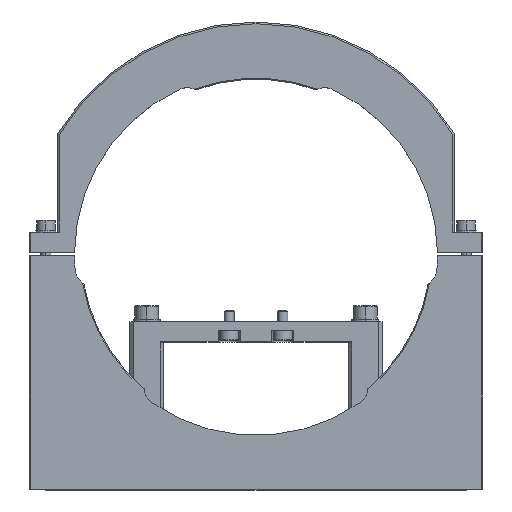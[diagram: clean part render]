
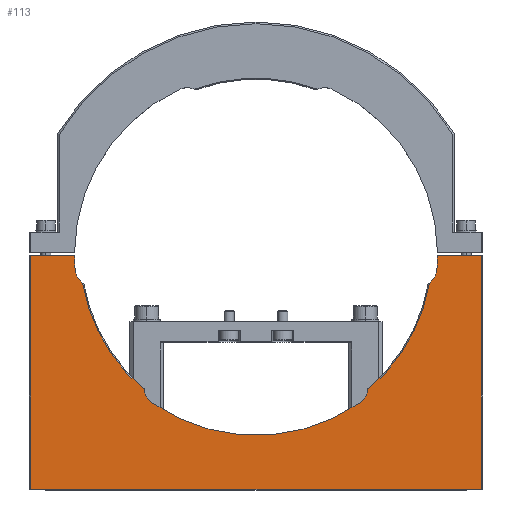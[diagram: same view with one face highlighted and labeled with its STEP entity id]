
A CAD part, top view. The second image highlights one B-rep face of the part: STEP entity #113.
In plain terms, the highlighted planar face has unit normal (0, 0, 1).
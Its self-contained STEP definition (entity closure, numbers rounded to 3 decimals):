
#23 = CARTESIAN_POINT ( 'NONE',  ( 48.315, -4.227, 132. ) ) ;
#113 = ADVANCED_FACE ( 'NONE', ( #9721 ), #14889, .F. ) ;
#329 = VERTEX_POINT ( 'NONE', #1805 ) ;
#343 = DIRECTION ( 'NONE',  ( -1., 0., 0. ) ) ;
#409 = CARTESIAN_POINT ( 'NONE',  ( 67., -0.5, 132. ) ) ;
#454 = DIRECTION ( 'NONE',  ( -0.5, -0.866, 0. ) ) ;
#797 = AXIS2_PLACEMENT_3D ( 'NONE', #10054, #12689, #15542 ) ;
#827 = ORIENTED_EDGE ( 'NONE', *, *, #7823, .T. ) ;
#1143 = DIRECTION ( 'NONE',  ( 1., 0., 0. ) ) ;
#1173 = VERTEX_POINT ( 'NONE', #409 ) ;
#1353 = VERTEX_POINT ( 'NONE', #6191 ) ;
#1385 = DIRECTION ( 'NONE',  ( -0.5, 0.866, 0. ) ) ;
#1657 = LINE ( 'NONE', #5226, #2377 ) ;
#1722 = CARTESIAN_POINT ( 'NONE',  ( 70., -0.5, 132. ) ) ;
#1796 = EDGE_CURVE ( 'NONE', #4285, #4158, #15644, .T. ) ;
#1805 = CARTESIAN_POINT ( 'NONE',  ( 51.579, -8.654, 132. ) ) ;
#1839 = CARTESIAN_POINT ( 'NONE',  ( 67.5, -70., 132. ) ) ;
#1886 = CARTESIAN_POINT ( 'NONE',  ( 0., 0., 132. ) ) ;
#1975 = CIRCLE ( 'NONE', #11976, 54. ) ;
#2322 = CARTESIAN_POINT ( 'NONE',  ( 27.818, -39.729, 132. ) ) ;
#2377 = VECTOR ( 'NONE', #6589, 1000. ) ;
#2454 = ORIENTED_EDGE ( 'NONE', *, *, #11841, .F. ) ;
#2607 = AXIS2_PLACEMENT_3D ( 'NONE', #2322, #8758, #16384 ) ;
#2733 = DIRECTION ( 'NONE',  ( 0., 0., -1. ) ) ;
#2851 = CIRCLE ( 'NONE', #12332, 52.3 ) ;
#2894 = EDGE_CURVE ( 'NONE', #13021, #16536, #15371, .T. ) ;
#2932 = AXIS2_PLACEMENT_3D ( 'NONE', #1886, #12056, #454 ) ;
#3091 = CARTESIAN_POINT ( 'NONE',  ( -53.795, -4.706, 132. ) ) ;
#3272 = ORIENTED_EDGE ( 'NONE', *, *, #14082, .F. ) ;
#3500 = CARTESIAN_POINT ( 'NONE',  ( 0., 0., 132. ) ) ;
#3674 = DIRECTION ( 'NONE',  ( 0., 1., 0. ) ) ;
#3694 = CIRCLE ( 'NONE', #8571, 5.5 ) ;
#3808 = CARTESIAN_POINT ( 'NONE',  ( -53.998, -0.5, 132. ) ) ;
#4027 = ORIENTED_EDGE ( 'NONE', *, *, #1796, .T. ) ;
#4066 = LINE ( 'NONE', #14646, #13103 ) ;
#4158 = VERTEX_POINT ( 'NONE', #6049 ) ;
#4185 = EDGE_CURVE ( 'NONE', #9076, #15932, #1975, .T. ) ;
#4285 = VERTEX_POINT ( 'NONE', #16076 ) ;
#4324 = CARTESIAN_POINT ( 'NONE',  ( 53.795, -4.706, 132. ) ) ;
#4557 = AXIS2_PLACEMENT_3D ( 'NONE', #4624, #7166, #11304 ) ;
#4624 = CARTESIAN_POINT ( 'NONE',  ( 0., 0., 132. ) ) ;
#4637 = CARTESIAN_POINT ( 'NONE',  ( -30.973, -44.234, 132. ) ) ;
#4688 = DIRECTION ( 'NONE',  ( 0., 0., 1. ) ) ;
#4840 = VERTEX_POINT ( 'NONE', #4637 ) ;
#4884 = CIRCLE ( 'NONE', #7855, 5.5 ) ;
#4904 = ORIENTED_EDGE ( 'NONE', *, *, #12595, .F. ) ;
#4985 = ORIENTED_EDGE ( 'NONE', *, *, #11299, .F. ) ;
#5011 = AXIS2_PLACEMENT_3D ( 'NONE', #1839, #14629, #5759 ) ;
#5031 = CARTESIAN_POINT ( 'NONE',  ( 67., -70., 132. ) ) ;
#5108 = ORIENTED_EDGE ( 'NONE', *, *, #4185, .F. ) ;
#5226 = CARTESIAN_POINT ( 'NONE',  ( -67., -70., 132. ) ) ;
#5245 = VERTEX_POINT ( 'NONE', #12492 ) ;
#5483 = EDGE_CURVE ( 'NONE', #8147, #1173, #6401, .T. ) ;
#5646 = CARTESIAN_POINT ( 'NONE',  ( 67., -70., 132. ) ) ;
#5657 = VERTEX_POINT ( 'NONE', #7322 ) ;
#5759 = DIRECTION ( 'NONE',  ( -1., 0., 0. ) ) ;
#5874 = CARTESIAN_POINT ( 'NONE',  ( 53.998, -0.5, 132. ) ) ;
#6049 = CARTESIAN_POINT ( 'NONE',  ( -51.579, -8.654, 132. ) ) ;
#6191 = CARTESIAN_POINT ( 'NONE',  ( -67., -70., 132. ) ) ;
#6401 = LINE ( 'NONE', #5031, #16293 ) ;
#6589 = DIRECTION ( 'NONE',  ( 0., -1., 0. ) ) ;
#6591 = ORIENTED_EDGE ( 'NONE', *, *, #5483, .T. ) ;
#6905 = DIRECTION ( 'NONE',  ( 1., 0., 0. ) ) ;
#7037 = EDGE_CURVE ( 'NONE', #8147, #1353, #4066, .T. ) ;
#7166 = DIRECTION ( 'NONE',  ( 0., 0., -1. ) ) ;
#7322 = CARTESIAN_POINT ( 'NONE',  ( 33.284, -40.342, 132. ) ) ;
#7470 = AXIS2_PLACEMENT_3D ( 'NONE', #8215, #12025, #15669 ) ;
#7755 = VERTEX_POINT ( 'NONE', #14338 ) ;
#7823 = EDGE_CURVE ( 'NONE', #329, #5657, #2851, .T. ) ;
#7835 = CARTESIAN_POINT ( 'NONE',  ( 0., 0., 132. ) ) ;
#7855 = AXIS2_PLACEMENT_3D ( 'NONE', #15260, #10590, #16696 ) ;
#8147 = VERTEX_POINT ( 'NONE', #5646 ) ;
#8215 = CARTESIAN_POINT ( 'NONE',  ( 0., 0., 132. ) ) ;
#8265 = ORIENTED_EDGE ( 'NONE', *, *, #10836, .F. ) ;
#8400 = EDGE_CURVE ( 'NONE', #5245, #5657, #13116, .T. ) ;
#8410 = DIRECTION ( 'NONE',  ( -0.5, 0.866, 0. ) ) ;
#8571 = AXIS2_PLACEMENT_3D ( 'NONE', #23, #11795, #1385 ) ;
#8758 = DIRECTION ( 'NONE',  ( 0., 0., 1. ) ) ;
#8901 = CIRCLE ( 'NONE', #797, 5.5 ) ;
#9059 = EDGE_CURVE ( 'NONE', #4840, #5245, #14747, .T. ) ;
#9076 = VERTEX_POINT ( 'NONE', #4324 ) ;
#9181 = EDGE_LOOP ( 'NONE', ( #15298, #6591, #4904, #5108, #3272, #827, #13495, #13976, #8265, #4027, #4985, #13242, #2454, #13097 ) ) ;
#9721 = FACE_OUTER_BOUND ( 'NONE', #9181, .T. ) ;
#9899 = DIRECTION ( 'NONE',  ( 1., 0., 0. ) ) ;
#9984 = CARTESIAN_POINT ( 'NONE',  ( 70., -0.5, 132. ) ) ;
#10054 = CARTESIAN_POINT ( 'NONE',  ( -27.818, -39.729, 132. ) ) ;
#10590 = DIRECTION ( 'NONE',  ( 0., 0., 1. ) ) ;
#10828 = VECTOR ( 'NONE', #9899, 1000. ) ;
#10836 = EDGE_CURVE ( 'NONE', #4285, #4840, #8901, .T. ) ;
#11299 = EDGE_CURVE ( 'NONE', #16536, #4158, #4884, .T. ) ;
#11304 = DIRECTION ( 'NONE',  ( 1., 0., 0. ) ) ;
#11795 = DIRECTION ( 'NONE',  ( 0., 0., 1. ) ) ;
#11841 = EDGE_CURVE ( 'NONE', #7755, #13021, #16336, .T. ) ;
#11976 = AXIS2_PLACEMENT_3D ( 'NONE', #3500, #4688, #8410 ) ;
#12025 = DIRECTION ( 'NONE',  ( 0., 0., 1. ) ) ;
#12056 = DIRECTION ( 'NONE',  ( 0., 0., 1. ) ) ;
#12332 = AXIS2_PLACEMENT_3D ( 'NONE', #7835, #2733, #1143 ) ;
#12492 = CARTESIAN_POINT ( 'NONE',  ( 30.973, -44.234, 132. ) ) ;
#12595 = EDGE_CURVE ( 'NONE', #15932, #1173, #13249, .T. ) ;
#12689 = DIRECTION ( 'NONE',  ( 0., 0., 1. ) ) ;
#13021 = VERTEX_POINT ( 'NONE', #3808 ) ;
#13097 = ORIENTED_EDGE ( 'NONE', *, *, #14823, .T. ) ;
#13103 = VECTOR ( 'NONE', #343, 1000. ) ;
#13116 = CIRCLE ( 'NONE', #2607, 5.5 ) ;
#13242 = ORIENTED_EDGE ( 'NONE', *, *, #2894, .F. ) ;
#13249 = LINE ( 'NONE', #1722, #15988 ) ;
#13495 = ORIENTED_EDGE ( 'NONE', *, *, #8400, .F. ) ;
#13976 = ORIENTED_EDGE ( 'NONE', *, *, #9059, .F. ) ;
#14082 = EDGE_CURVE ( 'NONE', #329, #9076, #3694, .T. ) ;
#14338 = CARTESIAN_POINT ( 'NONE',  ( -67., -0.5, 132. ) ) ;
#14629 = DIRECTION ( 'NONE',  ( 0., 0., -1. ) ) ;
#14646 = CARTESIAN_POINT ( 'NONE',  ( 67.5, -70., 132. ) ) ;
#14747 = CIRCLE ( 'NONE', #7470, 54. ) ;
#14823 = EDGE_CURVE ( 'NONE', #7755, #1353, #1657, .T. ) ;
#14889 = PLANE ( 'NONE',  #5011 ) ;
#15260 = CARTESIAN_POINT ( 'NONE',  ( -48.315, -4.227, 132. ) ) ;
#15298 = ORIENTED_EDGE ( 'NONE', *, *, #7037, .F. ) ;
#15371 = CIRCLE ( 'NONE', #2932, 54. ) ;
#15542 = DIRECTION ( 'NONE',  ( 1., 0., 0. ) ) ;
#15644 = CIRCLE ( 'NONE', #4557, 52.3 ) ;
#15669 = DIRECTION ( 'NONE',  ( 1., 0., 0. ) ) ;
#15932 = VERTEX_POINT ( 'NONE', #5874 ) ;
#15988 = VECTOR ( 'NONE', #6905, 1000. ) ;
#16076 = CARTESIAN_POINT ( 'NONE',  ( -33.284, -40.342, 132. ) ) ;
#16293 = VECTOR ( 'NONE', #3674, 1000. ) ;
#16336 = LINE ( 'NONE', #9984, #10828 ) ;
#16384 = DIRECTION ( 'NONE',  ( -1., 0., 0. ) ) ;
#16536 = VERTEX_POINT ( 'NONE', #3091 ) ;
#16696 = DIRECTION ( 'NONE',  ( 0.5, 0.866, 0. ) ) ;
